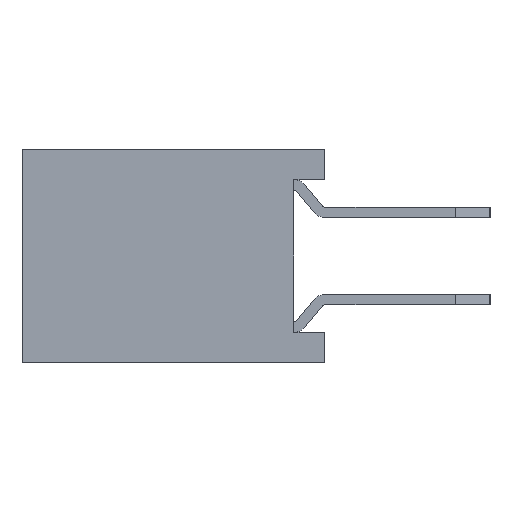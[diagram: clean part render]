
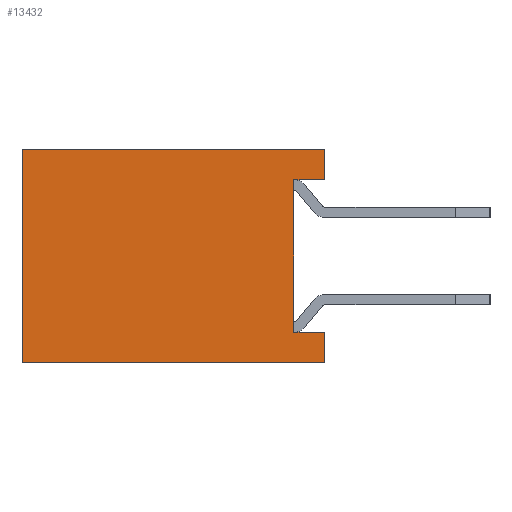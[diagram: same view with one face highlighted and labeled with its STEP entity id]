
A CAD part, left-side view. The second image highlights one B-rep face of the part: STEP entity #13432.
In plain terms, the highlighted planar face has unit normal (-1, 0, 0).
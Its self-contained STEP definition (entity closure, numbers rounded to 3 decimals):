
#8=DIRECTION('',(0.,0.,-1.));
#9=VECTOR('',#8,0.44);
#10=CARTESIAN_POINT('',(-16.125,-4.4,1.55));
#11=LINE('',#10,#9);
#16=DIRECTION('',(0.,1.,0.));
#17=VECTOR('',#16,0.45);
#18=CARTESIAN_POINT('',(-16.125,-4.4,1.11));
#19=LINE('',#18,#17);
#23=DIRECTION('',(0.,0.,-1.));
#24=VECTOR('',#23,2.22);
#25=CARTESIAN_POINT('',(-16.125,-3.95,1.11));
#26=LINE('',#25,#24);
#30=DIRECTION('',(0.,-1.,0.));
#31=VECTOR('',#30,0.45);
#32=CARTESIAN_POINT('',(-16.125,-3.95,-1.11));
#33=LINE('',#32,#31);
#37=DIRECTION('',(0.,0.,-1.));
#38=VECTOR('',#37,0.44);
#39=CARTESIAN_POINT('',(-16.125,-4.4,-1.11));
#40=LINE('',#39,#38);
#44=DIRECTION('',(0.,1.,0.));
#45=VECTOR('',#44,4.4);
#46=CARTESIAN_POINT('',(-16.125,-4.4,-1.55));
#47=LINE('',#46,#45);
#51=DIRECTION('',(0.,0.,1.));
#52=VECTOR('',#51,3.1);
#53=CARTESIAN_POINT('',(-16.125,0.,-1.55));
#54=LINE('',#53,#52);
#58=DIRECTION('',(0.,-1.,0.));
#59=VECTOR('',#58,4.4);
#60=CARTESIAN_POINT('',(-16.125,0.,1.55));
#61=LINE('',#60,#59);
#11377=CARTESIAN_POINT('',(-16.125,-4.4,1.55));
#11378=CARTESIAN_POINT('',(-16.125,-4.4,1.11));
#11379=VERTEX_POINT('',#11377);
#11380=VERTEX_POINT('',#11378);
#11381=CARTESIAN_POINT('',(-16.125,-3.95,1.11));
#11382=VERTEX_POINT('',#11381);
#11383=CARTESIAN_POINT('',(-16.125,-3.95,-1.11));
#11384=VERTEX_POINT('',#11383);
#11385=CARTESIAN_POINT('',(-16.125,-4.4,-1.11));
#11386=VERTEX_POINT('',#11385);
#11387=CARTESIAN_POINT('',(-16.125,-4.4,-1.55));
#11388=VERTEX_POINT('',#11387);
#11389=CARTESIAN_POINT('',(-16.125,0.,-1.55));
#11390=VERTEX_POINT('',#11389);
#11391=CARTESIAN_POINT('',(-16.125,0.,1.55));
#11392=VERTEX_POINT('',#11391);
#13409=CARTESIAN_POINT('',(-16.125,0.,0.));
#13410=DIRECTION('',(1.,0.,0.));
#13411=DIRECTION('',(0.,0.,-1.));
#13412=AXIS2_PLACEMENT_3D('',#13409,#13410,#13411);
#13413=PLANE('',#13412);
#13415=ORIENTED_EDGE('',*,*,#13414,.T.);
#13417=ORIENTED_EDGE('',*,*,#13416,.T.);
#13419=ORIENTED_EDGE('',*,*,#13418,.T.);
#13421=ORIENTED_EDGE('',*,*,#13420,.T.);
#13423=ORIENTED_EDGE('',*,*,#13422,.T.);
#13425=ORIENTED_EDGE('',*,*,#13424,.T.);
#13427=ORIENTED_EDGE('',*,*,#13426,.T.);
#13429=ORIENTED_EDGE('',*,*,#13428,.T.);
#13430=EDGE_LOOP('',(#13415,#13417,#13419,#13421,#13423,#13425,#13427,#13429));
#13431=FACE_OUTER_BOUND('',#13430,.F.);
#13414=EDGE_CURVE('',#11379,#11380,#11,.T.);
#13416=EDGE_CURVE('',#11380,#11382,#19,.T.);
#13418=EDGE_CURVE('',#11382,#11384,#26,.T.);
#13420=EDGE_CURVE('',#11384,#11386,#33,.T.);
#13422=EDGE_CURVE('',#11386,#11388,#40,.T.);
#13424=EDGE_CURVE('',#11388,#11390,#47,.T.);
#13426=EDGE_CURVE('',#11390,#11392,#54,.T.);
#13428=EDGE_CURVE('',#11392,#11379,#61,.T.);
#13432=ADVANCED_FACE('',(#13431),#13413,.F.);
